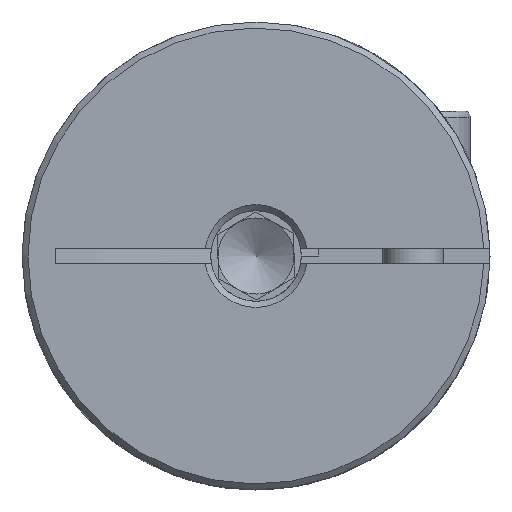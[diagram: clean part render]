
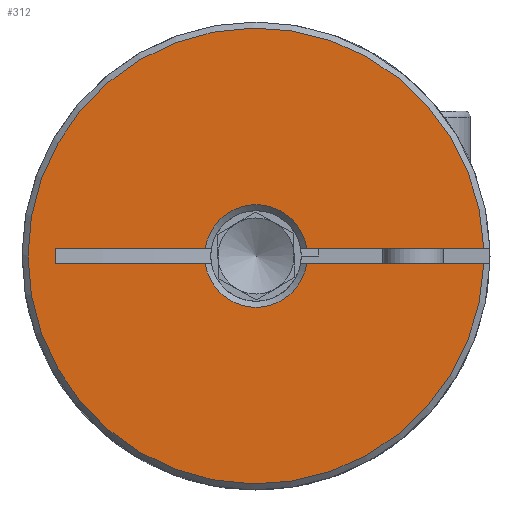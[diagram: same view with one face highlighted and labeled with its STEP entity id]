
A CAD part, left-side view. The second image highlights one B-rep face of the part: STEP entity #312.
In plain terms, the highlighted planar face has unit normal (-1, 0, 0).
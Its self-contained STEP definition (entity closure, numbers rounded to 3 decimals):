
#312 = ADVANCED_FACE( 'NONE', ( #709 ), #710, .F. );
#709 = FACE_OUTER_BOUND( '', #1329, .T. );
#710 = PLANE( '', #1330 );
#1329 = EDGE_LOOP( '', ( #1982, #1983, #1984, #1985, #1986, #1987, #1988, #1989 ) );
#1330 = AXIS2_PLACEMENT_3D( '', #1990, #1991, #1992 );
#1982 = ORIENTED_EDGE( '', *, *, #3021, .T. );
#1983 = ORIENTED_EDGE( '', *, *, #3022, .T. );
#1984 = ORIENTED_EDGE( '', *, *, #3023, .T. );
#1985 = ORIENTED_EDGE( '', *, *, #3024, .T. );
#1986 = ORIENTED_EDGE( '', *, *, #3025, .F. );
#1987 = ORIENTED_EDGE( '', *, *, #3026, .T. );
#1988 = ORIENTED_EDGE( '', *, *, #3027, .F. );
#1989 = ORIENTED_EDGE( '', *, *, #3028, .T. );
#1990 = CARTESIAN_POINT( '', ( 0., 1.5, 0. ) );
#1991 = DIRECTION( '', ( 1., 0., 0. ) );
#1992 = DIRECTION( '', ( 0., 1., 0. ) );
#3021 = EDGE_CURVE( 'NONE', #3451, #3452, #3453, .T. );
#3022 = EDGE_CURVE( 'NONE', #3452, #3454, #3455, .T. );
#3023 = EDGE_CURVE( 'NONE', #3454, #3456, #3457, .T. );
#3024 = EDGE_CURVE( 'NONE', #3456, #3458, #3459, .T. );
#3025 = EDGE_CURVE( 'NONE', #3460, #3458, #3461, .T. );
#3026 = EDGE_CURVE( 'NONE', #3460, #3462, #3463, .T. );
#3027 = EDGE_CURVE( 'NONE', #3464, #3462, #3465, .T. );
#3028 = EDGE_CURVE( 'NONE', #3464, #3451, #3466, .T. );
#3451 = VERTEX_POINT( 'NONE', #4017 );
#3452 = VERTEX_POINT( 'NONE', #4018 );
#3453 = LINE( '', #4019, #4020 );
#3454 = VERTEX_POINT( 'NONE', #4021 );
#3455 = CIRCLE( '', #4022, 1.7 );
#3456 = VERTEX_POINT( 'NONE', #4023 );
#3457 = LINE( '', #4024, #4025 );
#3458 = VERTEX_POINT( 'NONE', #4026 );
#3459 = CIRCLE( '', #4027, 7.55 );
#3460 = VERTEX_POINT( 'NONE', #4028 );
#3461 = LINE( '', #4029, #4030 );
#3462 = VERTEX_POINT( 'NONE', #4031 );
#3463 = CIRCLE( '', #4032, 1.7 );
#3464 = VERTEX_POINT( 'NONE', #4033 );
#3465 = LINE( '', #4034, #4035 );
#3466 = LINE( '', #4036, #4037 );
#4017 = CARTESIAN_POINT( '', ( 0., 6.624, 0.25 ) );
#4018 = CARTESIAN_POINT( '', ( 0., 1.682, 0.25 ) );
#4019 = CARTESIAN_POINT( '', ( 0., 1.5, 0.25 ) );
#4020 = VECTOR( '', #4742, 1000. );
#4021 = CARTESIAN_POINT( '', ( 0., -1.682, 0.25 ) );
#4022 = AXIS2_PLACEMENT_3D( '', #4743, #4744, #4745 );
#4023 = CARTESIAN_POINT( '', ( 0., -7.546, 0.25 ) );
#4024 = CARTESIAN_POINT( '', ( 0., 1.5, 0.25 ) );
#4025 = VECTOR( '', #4746, 1000. );
#4026 = CARTESIAN_POINT( '', ( 0., -7.546, -0.25 ) );
#4027 = AXIS2_PLACEMENT_3D( '', #4747, #4748, #4749 );
#4028 = CARTESIAN_POINT( '', ( 0., -1.682, -0.25 ) );
#4029 = CARTESIAN_POINT( '', ( 0., 1.5, -0.25 ) );
#4030 = VECTOR( '', #4750, 1000. );
#4031 = CARTESIAN_POINT( '', ( 0., 1.682, -0.25 ) );
#4032 = AXIS2_PLACEMENT_3D( '', #4751, #4752, #4753 );
#4033 = CARTESIAN_POINT( '', ( 0., 6.624, -0.25 ) );
#4034 = CARTESIAN_POINT( '', ( 0., 1.5, -0.25 ) );
#4035 = VECTOR( '', #4754, 1000. );
#4036 = CARTESIAN_POINT( '', ( 0., 6.624, -0.25 ) );
#4037 = VECTOR( '', #4755, 1000. );
#4742 = DIRECTION( '', ( 0., -1., 0. ) );
#4743 = CARTESIAN_POINT( '', ( 0., 0., 0. ) );
#4744 = DIRECTION( '', ( 1., 0., 0. ) );
#4745 = DIRECTION( '', ( 0., 0., -1. ) );
#4746 = DIRECTION( '', ( 0., -1., 0. ) );
#4747 = CARTESIAN_POINT( '', ( 0., 0., 0. ) );
#4748 = DIRECTION( '', ( -1., 0., 0. ) );
#4749 = DIRECTION( '', ( 0., 0., -1. ) );
#4750 = DIRECTION( '', ( 0., -1., 0. ) );
#4751 = CARTESIAN_POINT( '', ( 0., 0., 0. ) );
#4752 = DIRECTION( '', ( 1., 0., 0. ) );
#4753 = DIRECTION( '', ( 0., 0., -1. ) );
#4754 = DIRECTION( '', ( 0., -1., 0. ) );
#4755 = DIRECTION( '', ( 0., 0., 1. ) );
